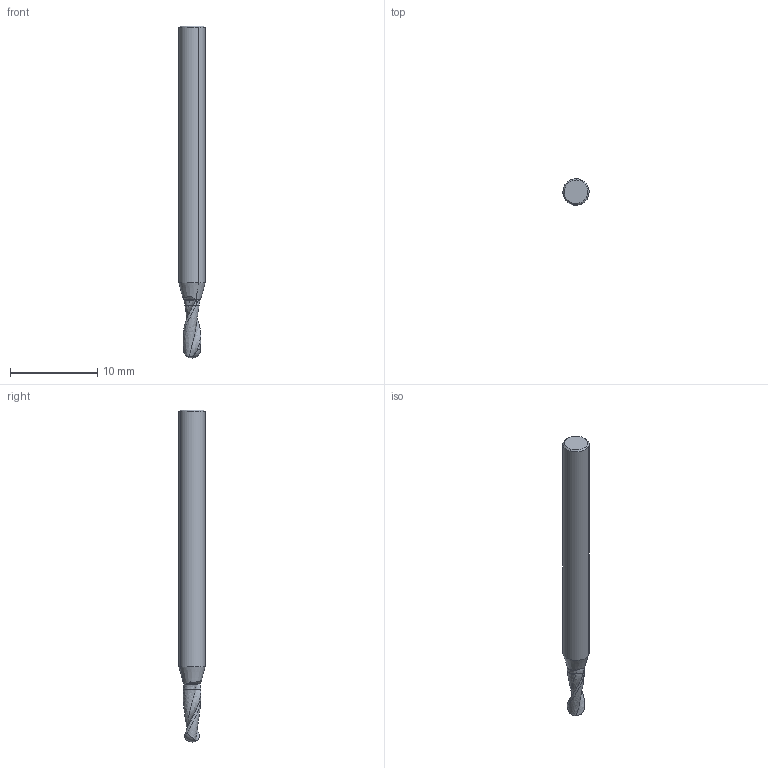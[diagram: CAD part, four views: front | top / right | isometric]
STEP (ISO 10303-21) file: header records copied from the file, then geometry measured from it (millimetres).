
FILE_DESCRIPTION(('CATIA V5 STEP','CAx-IF Rec.Pracs.--- Model Styling and Organization---1.2---2011-12-15'),'2;1');
FILE_NAME('I:\isr\design\admin8\users\raheeb_a\5667687 D.stp','2017-02-21T08:32:50+00:00',('none'),('none'),'CATIA Version 5 Release 21 SP 5 (IN-10)','CATIA V5 STEP AP214','none');
FILE_SCHEMA(('AUTOMOTIVE_DESIGN { 1 0 10303 214 1 1 1 1 }'));
Length unit declared in the file: millimetre
Products named in the file (1): EB-A2 02-06C03E38
Bounding box: 3 x 3 x 38 mm (x, y, z)
Volume: 228.9 mm3; surface area: 340.7 mm2
Topology: 2 solids, 2 shells, 39 faces, 101 edges, 65 vertices
Faces by surface type: bspline 16, cylinder 8, extrusion 6, cone 4, plane 3, sphere 2
Entity records: 1868 total; most frequent: CARTESIAN_POINT 1101, ORIENTED_EDGE 192, EDGE_CURVE 96, DIRECTION 69, VERTEX_POINT 61, B_SPLINE_CURVE_WITH_KNOTS 50, ADVANCED_FACE 39, EDGE_LOOP 39
